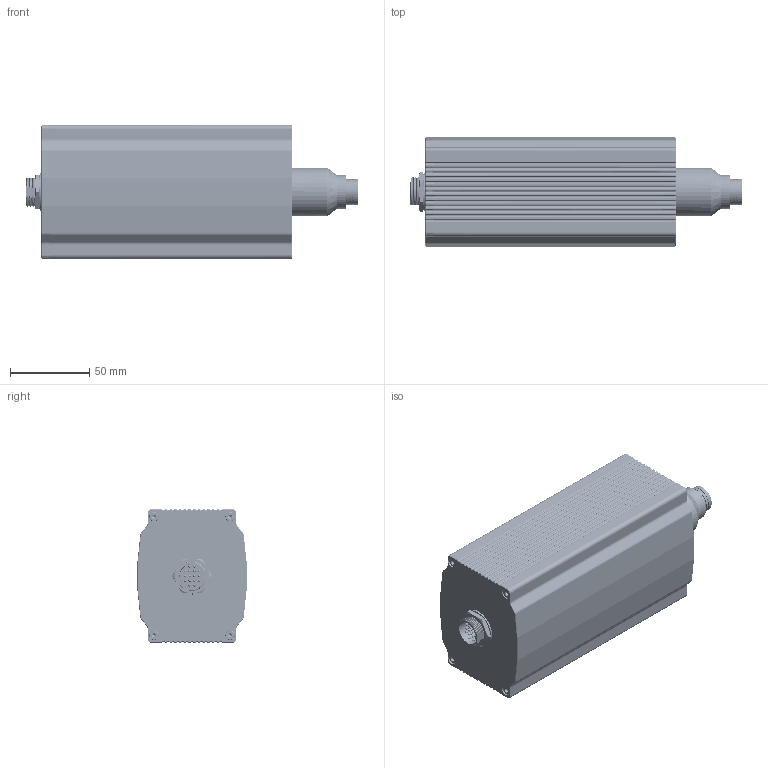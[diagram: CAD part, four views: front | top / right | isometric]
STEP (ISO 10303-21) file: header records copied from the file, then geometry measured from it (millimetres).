
FILE_DESCRIPTION((''),'2;1');
FILE_NAME('FI1046DC-HA','2025-12-25T16:49:46',('Admin'),(''),'CREO PARAMETRIC BY PTC INC, 2020074','CREO PARAMETRIC BY PTC INC, 2020074','');
FILE_SCHEMA(('CONFIG_CONTROL_DESIGN'));
Length unit declared in the file: millimetre
Products named in the file (1): FI1046DC-HA
Bounding box: 210.12 x 69.15 x 84.5 mm (x, y, z)
Volume: 492348 mm3; surface area: 156220.3 mm2
Topology: 3 solids, 11 shells, 2823 faces, 8736 edges, 5810 vertices
Faces by surface type: cylinder 1191, plane 471, bspline 375, cone 267, torus 213, sphere 160, extrusion 146
Entity records: 152672 total; most frequent: CARTESIAN_POINT 81914, ORIENTED_EDGE 17296, DIRECTION 11453, EDGE_CURVE 8648, VERTEX_POINT 5810, AXIS2_PLACEMENT_3D 4308, B_SPLINE_CURVE_WITH_KNOTS 4097, EDGE_LOOP 2950
